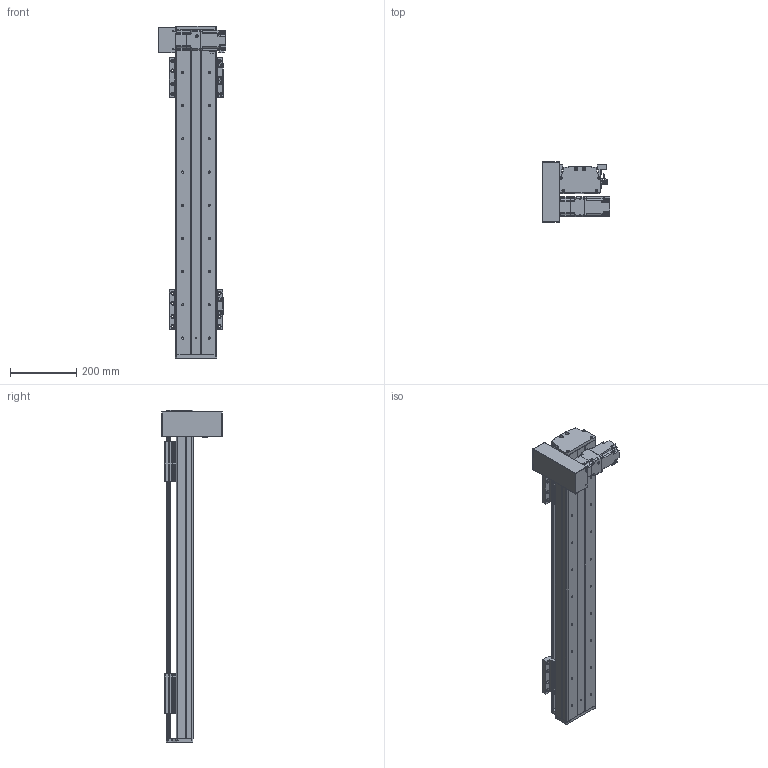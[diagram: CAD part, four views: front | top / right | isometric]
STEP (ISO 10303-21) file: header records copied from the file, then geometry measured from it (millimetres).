
FILE_DESCRIPTION(/* description */ (''),/* implementation_level */ '2;1');
FILE_NAME(/* name */ 'C:\Users\PC\Desktop\3D도면\STEP\DSB125-DL2G-W0700-R.stp',/* time_stamp */ '2018-06-21T14:49:04+09:00',/* author */ ('PC'),/* organization */ (''),/* preprocessor_version */ 'ST-DEVELOPER v16.5',/* originating_system */ 'Autodesk Inventor 2017',/* authorisation */ '');
FILE_SCHEMA (('AUTOMOTIVE_DESIGN { 1 0 10303 214 3 1 1 }'));
Length unit declared in the file: millimetre
Products named in the file (12): DSB125-L-300ST; DSR125-BASE(S-TYPE); DSR125-REAR COVER-R01(170203); DSR125-REAR COVER-R01(170203)_1; DSR125-UP COVER-R01(170203); hg-kr23_; ab0601-p0401200402; 13-BELT COVER; DSR126-SENSOR DOG; pm-y65_step; SENSOR BRACKET(EE-SX674A); DSR125-TABLE(MSA15X)
Assembly tree (16 placements, depth 2):
  DSB125-L-300ST
    DSR125-BASE(S-TYPE)
    DSR125-REAR COVER-R01(170203)
    DSR125-REAR COVER-R01(170203)_1
    DSR125-UP COVER-R01(170203)
    hg-kr23_
    ab0601-p0401200402
    13-BELT COVER
    DSR126-SENSOR DOG
    pm-y65_step  x3
    SENSOR BRACKET(EE-SX674A)  x3
    DSR125-TABLE(MSA15X)  x2
Bounding box: 202.1 x 182 x 1000 mm (x, y, z)
Volume: 3977591.6 mm3; surface area: 1148271.6 mm2
Topology: 17 solids, 22 shells, 1661 faces, 4501 edges, 2970 vertices
Faces by surface type: plane 908, cylinder 631, cone 110, sphere 8, torus 4
Full cylindrical faces by diameter (mm): 2.459 x20, 3.242 x16, 3.5 x6, 4 x1, 4.134 x16, 4.2 x4, 4.3 x1, 4.5 x50, 4.917 x20, 5 x27, 5.3 x1, 5.5 x4, 5.6 x8, 5.8 x4, 5.9 x8, 6 x4, 6.6 x22, 6.647 x20, 7.5 x32, 8.5 x8, 8.7 x1, 11 x22, 14 x1, 16 x2, 17 x1, 20 x1, 47 x1, 50 x3
Entity records: 35350 total; most frequent: CARTESIAN_POINT 6499, DIRECTION 6124, ORIENTED_EDGE 5478, EDGE_CURVE 2744, AXIS2_PLACEMENT_3D 2250, VERTEX_POINT 1953, EDGE_LOOP 1673, LINE 1624
